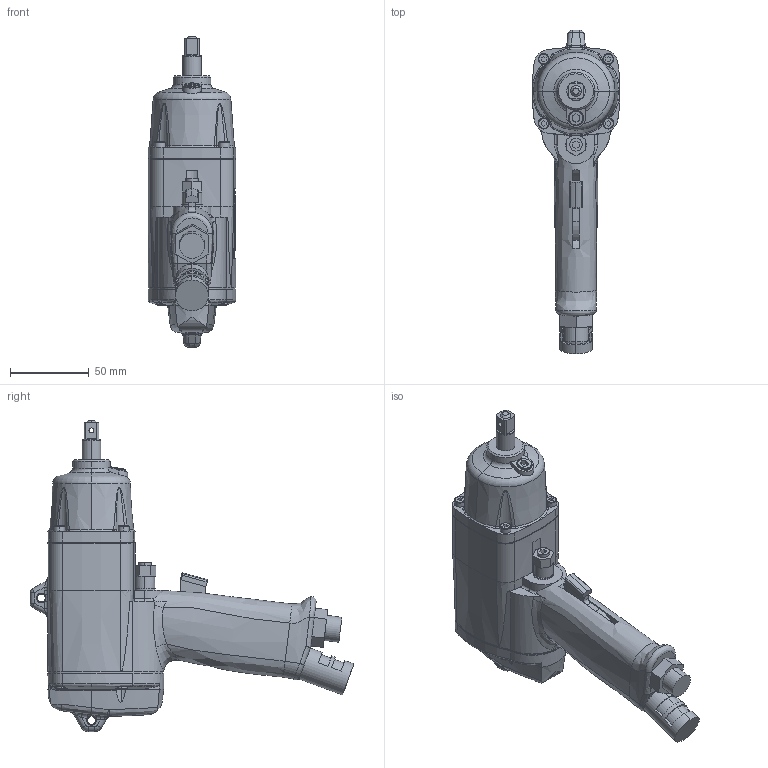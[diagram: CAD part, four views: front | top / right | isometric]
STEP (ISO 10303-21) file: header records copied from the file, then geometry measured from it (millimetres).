
FILE_DESCRIPTION (( 'STEP AP203' ), '1' );
FILE_NAME ('UX-ST800.STEP', '2007-04-20T06:04:46', ( ' ' ), ( ' ' ), 'SwSTEP 2.0', 'SolidWorks 2003240', '' );
FILE_SCHEMA (( 'CONFIG_CONTROL_DESIGN' ));
Length unit declared in the file: millimetre
Products named in the file (6): 1943192_UX-ST800_蹬怮椔; UX-ST800; 1834392_UX-ST800_蹬怮椔; 1830252_UX-ST800_蹬怮椔; 1830122_UX-ST800_蹬怮椔; 1871071_UX-ST800_蹬怮椔
Assembly tree (5 placements, depth 2):
  UX-ST800
    1871071_UX-ST800_蹬怮椔
    1943192_UX-ST800_蹬怮椔
    1834392_UX-ST800_蹬怮椔
    1830122_UX-ST800_蹬怮椔
    1830252_UX-ST800_蹬怮椔
Bounding box: 56 x 205.97 x 198 mm (x, y, z)
Volume: 550523.3 mm3; surface area: 70795 mm2
Topology: 5 solids, 5 shells, 827 faces, 2162 edges, 1375 vertices
Faces by surface type: plane 293, cylinder 235, bspline 222, cone 44, torus 29, sphere 4
Entity records: 80721 total; most frequent: CARTESIAN_POINT 61784, ORIENTED_EDGE 4304, DIRECTION 3067, EDGE_CURVE 2152, VERTEX_POINT 1375, AXIS2_PLACEMENT_3D 1107, EDGE_LOOP 877, VECTOR 853
